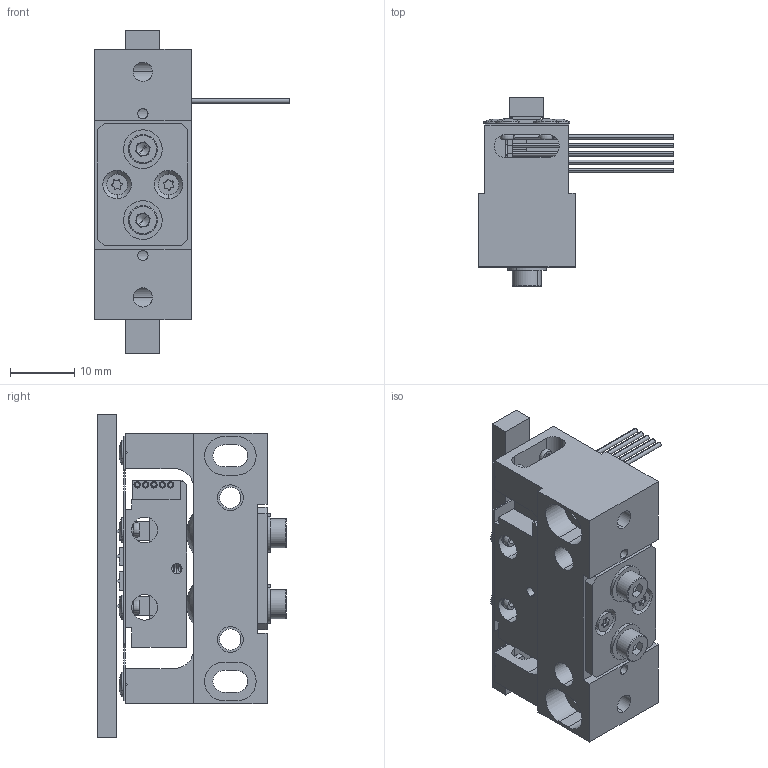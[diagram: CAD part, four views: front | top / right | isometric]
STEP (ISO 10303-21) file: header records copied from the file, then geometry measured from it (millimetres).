
FILE_DESCRIPTION (( 'STEP AP214' ), '1' );
FILE_NAME ('LS1510B-B15-Driverod50-PiezoMotor.STEP', '2017-06-07T13:31:40', ( '' ), ( '' ), 'SwSTEP 2.0', 'SolidWorks 2016', '' );
FILE_SCHEMA (( 'AUTOMOTIVE_DESIGN' ));
Length unit declared in the file: millimetre
Products named in the file (5): LS1510B-B15-PiezoMotor; 100361-50-PiezoMotor; LS1510B-B15-Driverod50-PiezoMotor
Assembly tree (2 placements, depth 2):
  100361-50-PiezoMotor
  LS1510B-B15-PiezoMotor
  LS1510B-B15-Driverod50-PiezoMotor
    LS1510B-B15-PiezoMotor
    100361-50-PiezoMotor
Bounding box: 30.25 x 29.3 x 50 mm (x, y, z)
Volume: 10252.9 mm3; surface area: 11598.3 mm2
Topology: 34 solids, 34 shells, 658 faces, 1661 edges, 1070 vertices
Faces by surface type: plane 292, cylinder 274, cone 44, torus 24, sphere 20, bspline 4
Entity records: 23919 total; most frequent: CARTESIAN_POINT 7005, DIRECTION 3603, ORIENTED_EDGE 3298, EDGE_CURVE 1649, AXIS2_PLACEMENT_3D 1354, VERTEX_POINT 1070, LINE 895, VECTOR 895
